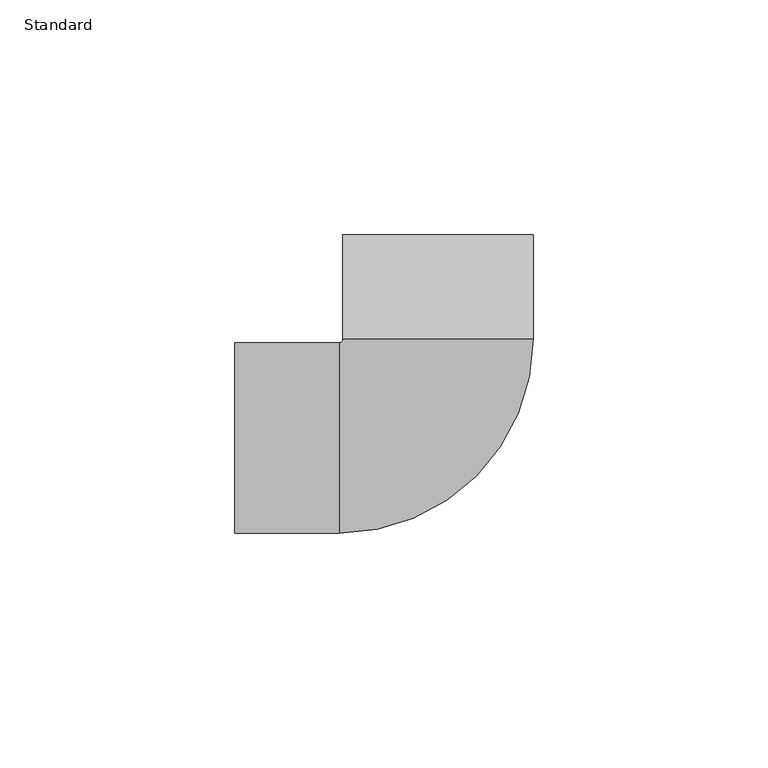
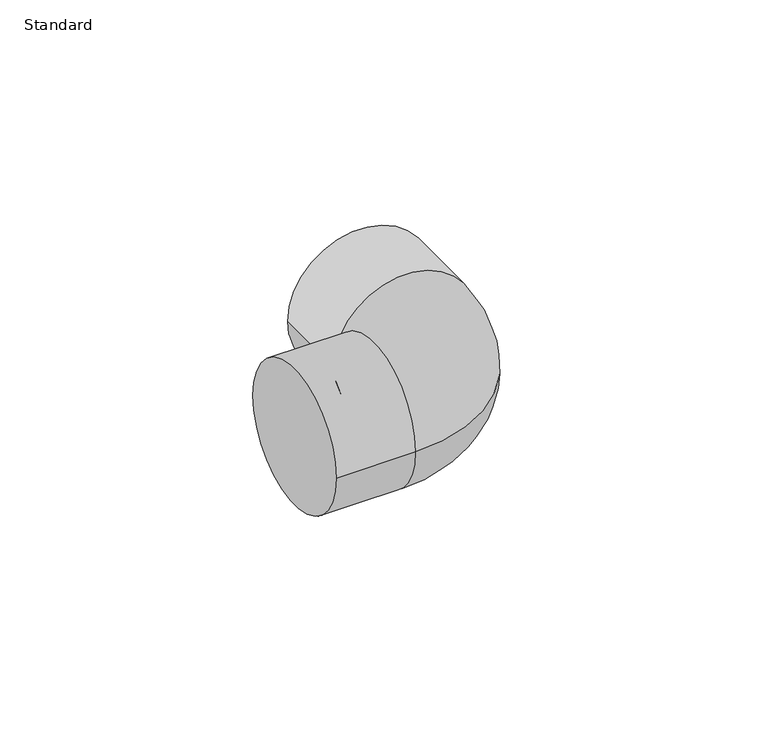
"""IFC4 building model written with IfcOpenShell, lengths in millimetres: pipe fitting geometry, M_Elbow - CPVC - Sch 40 : Standard."""

from ifc_helpers import new_model, si_unit, point, frame, origin, place, context, project, spatial, circle_curve, ellipse_curve, trimmed, source, transform, mapped, element, save
from ifc_brep_helpers import plane_surface, cylinder_surface, revolved_surface, advanced_brep


def standard_c393d86d(model_context):
    return source(origin(), model_context, "Body", "AdvancedBrep", [
        advanced_brep(
        [(-43.2625468, -20.2438, 0.0), (-43.2625468, 20.2438, 0.0), (-21.0375468, -20.2438, 0.0), (-21.0375468, 20.2438, 0.0), (-20.2437968, 21.0375499, 0.0), (20.2438032, 21.0375438, 0.0), (20.2438065, 43.2625438, 0.0), (-20.2437935, 43.2625499, 0.0)],
        [
            (0, 1, circle_curve(frame((-43.2625468, 0.0, 0.0), z_axis=(-1.0, 0.0, 0.0), x_axis=(0.0, 1.0, 0.0)), 20.2438)),
            (1, 0, circle_curve(frame((-43.2625468, 0.0, 0.0), z_axis=(-1.0, 0.0, 0.0), x_axis=(0.0, 1.0, 0.0)), 20.2438)),
            (0, 2),
            (2, 3, circle_curve(frame((-21.0375468, 0.0, 0.0), z_axis=(-1.0, 0.0, 0.0), x_axis=(0.0, 1.0, 0.0)), 20.2438)),
            (3, 1),
            (3, 2, circle_curve(frame((-21.0375468, 0.0, 0.0), z_axis=(-1.0, 0.0, 0.0), x_axis=(0.0, 1.0, 0.0)), 20.2438)),
            (4, 3, circle_curve(frame((-21.0375468, 21.03755, 0.0), z_axis=(0.0, 0.0, -1.0), x_axis=(0.0, -1.0, 0.0)), 0.79375)),
            (2, 5, circle_curve(frame((-21.0375468, 21.03755, 0.0), z_axis=(0.0, 0.0, 1.0), x_axis=(0.0, -1.0, 0.0)), 41.28135)),
            (5, 4, circle_curve(frame((3.2e-06, 21.0375468, 0.0), z_axis=(-1.5066253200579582e-07, -0.9999999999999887, 0.0), x_axis=(-0.9999999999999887, 1.5066253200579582e-07, 0.0)), 20.2438)),
            (4, 5, circle_curve(frame((3.2e-06, 21.0375468, 0.0), z_axis=(-1.5066253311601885e-07, -0.9999999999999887, 0.0), x_axis=(-0.9999999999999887, 1.5066253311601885e-07, 0.0)), 20.2438)),
            (6, 7, circle_curve(frame((6.5e-06, 43.2625468, 0.0), z_axis=(1.5066253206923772e-07, 0.9999999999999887, 0.0), x_axis=(-0.9999999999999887, 1.5066253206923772e-07, 0.0)), 20.2438)),
            (7, 6, circle_curve(frame((6.5e-06, 43.2625468, 0.0), z_axis=(1.5066253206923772e-07, 0.9999999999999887, 0.0), x_axis=(-0.9999999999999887, 1.5066253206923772e-07, 0.0)), 20.2438)),
            (5, 6),
            (7, 4),
        ],
        [
            plane_surface(frame((-43.2625468, 0.0, 0.0), z_axis=(-1.0, 0.0, 0.0), x_axis=(0.0, 0.0, 1.0))),
            cylinder_surface(frame((-43.2625468, 0.0, 0.0), z_axis=(-1.0, 0.0, 0.0), x_axis=(0.0, 1.0, 0.0)), 20.2438),
            revolved_surface(trimmed(ellipse_curve(frame((-21.0375468, 0.0, 0.0), z_axis=(-1.0, 0.0, 0.0), x_axis=(0.0, 1.0, 0.0)), 20.2438, 20.2438), [point((-21.0375468, -20.2438, 0.0))], [point((-21.0375468, 20.2438, 0.0))], True, "CARTESIAN"), (-21.0375468, 21.03755, 0.0), (0.0, 0.0, 1.0)),
            revolved_surface(trimmed(ellipse_curve(frame((-21.0375468, 0.0, 0.0), z_axis=(-1.0, 0.0, 0.0), x_axis=(0.0, 1.0, 0.0)), 20.2438, 20.2438), [point((-21.0375468, 20.2438, 0.0))], [point((-21.0375468, -20.2438, 0.0))], True, "CARTESIAN"), (-21.0375468, 21.03755, 0.0), (0.0, 0.0, 1.0)),
            plane_surface(frame((6.5e-06, 43.2625468, 0.0), z_axis=(1.5066253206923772e-07, 0.9999999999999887, 0.0), x_axis=(0.0, 0.0, 1.0))),
            cylinder_surface(frame((3.2e-06, 21.0375468, 0.0), z_axis=(-1.5066253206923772e-07, -0.9999999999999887, 0.0), x_axis=(-0.9999999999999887, 1.5066253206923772e-07, 0.0)), 20.2438),
        ],
        [
            (0, [[1, 2]]),
            (1, [[-1, 3, 4, 5]]),
            (1, [[-2, -5, 6, -3]]),
            (2, [[7, -4, 8, 9]]),
            (3, [[-8, -6, -7, 10]]),
            (4, [[11, 12]]),
            (5, [[-9, 13, -12, 14]]),
            (5, [[-10, -14, -11, -13]]),
        ],
    ),
    ])


if __name__ == "__main__":
    model = new_model("IFC4")
    model_context = context("Model", 3, world=origin())
    ifc_project = project(units=[si_unit("LENGTHUNIT", "METRE", prefix="MILLI")], contexts=[model_context])
    site = spatial("IfcSite", under=ifc_project)
    building = spatial("IfcBuilding", under=site)
    placement = place(None, origin())
    standard_shape = standard_c393d86d(model_context)
    element("IfcPipeFitting", 1, ObjectType="M_Elbow - CPVC - Sch 40 : Standard", at=placement, inside=building, context=model_context, shape_type="MappedRepresentation", body=[
        mapped(standard_shape, transform((0.0, 0.0, 0.0), x_axis=(1.0, 0.0, 0.0), y_axis=(0.0, 1.0, 0.0), z_axis=(0.0, 0.0, 1.0))),
    ])
    save(model, "model.ifc")
